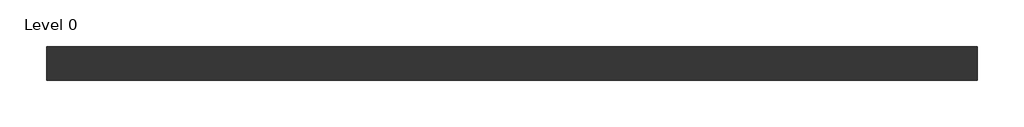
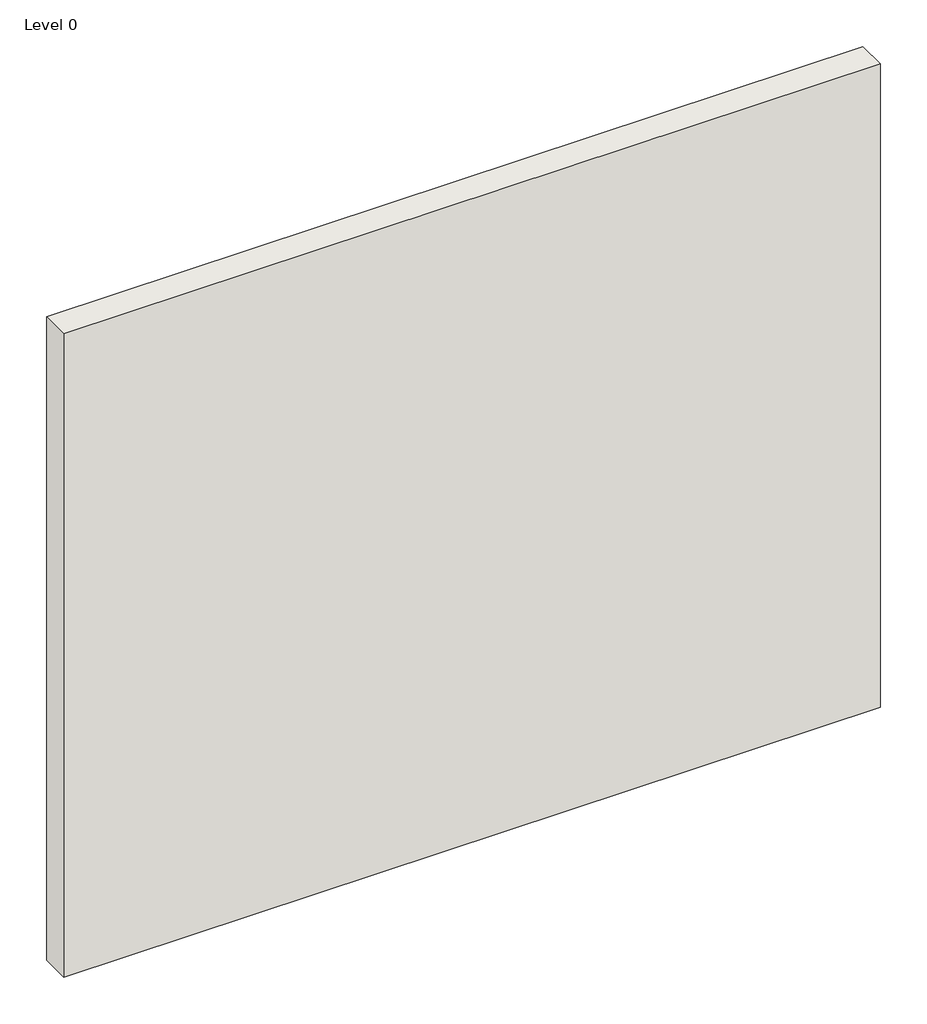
# One storey: 1 wall.
"""IFC4 building model written with IfcOpenShell, lengths in millimetres."""

import ifcopenshell
import ifcopenshell.guid

model = None  # the IFC model being written
_history = None  # IfcOwnerHistory: only IFC2X3 demands one
_inside = {}  # id of a spatial element -> (the spatial element, [elements in it])
_under = {}  # id of a project, library or spatial element -> (it, [spatial elements below it])
_declared = {}  # id of a project -> (the project, [libraries it declares])
_typed = {}  # id of a type object -> (the type object, [elements of that type])
_made_of = {}  # id of a material, layer set ... -> (it, [elements and type objects made of it])


def new_model(schema):
    """Start an empty IFC model of exactly this schema.

    Asked for "IFC4X3", IfcOpenShell would pick the latest addendum, in which some entities
    have other attributes; the version numbers below select the first issue.
    IFC2X3 requires an IfcOwnerHistory on every rooted entity: one is made here for all.
    """
    global model, _history
    if schema == "IFC4X3":
        model = ifcopenshell.file(schema_version=(4, 3, 0, 0))
    else:
        model = ifcopenshell.file(schema=schema)
    _inside.clear()
    _under.clear()
    _declared.clear()
    _typed.clear()
    _made_of.clear()
    _history = None
    if model.schema == "IFC2X3":
        org = make("IfcOrganization", Name="unknown")
        user = make(
            "IfcPersonAndOrganization",
            ThePerson=make("IfcPerson", FamilyName="unknown"),
            TheOrganization=org,
        )
        app = make(
            "IfcApplication",
            ApplicationDeveloper=org,
            Version="unknown",
            ApplicationFullName="unknown",
            ApplicationIdentifier="unknown",
        )
        _history = make(
            "IfcOwnerHistory",
            OwningUser=user,
            OwningApplication=app,
            ChangeAction="ADDED",
            CreationDate=0,
        )
    return model


def make(cls, **values):
    """One entity of the class cls with the attributes given. An attribute that is None is left unset."""
    return model.create_entity(
        cls, **{name: value for name, value in values.items() if value is not None}
    )


def rooted(cls, **values):
    """An entity with a GlobalId (a new one), such as an element, a storey or a relation."""
    return make(cls, GlobalId=ifcopenshell.guid.new(), OwnerHistory=_history, **values)


def si_unit(unit_type, name, prefix=None):
    """IfcSIUnit, for example si_unit("LENGTHUNIT", "METRE", prefix="MILLI")."""
    return make("IfcSIUnit", UnitType=unit_type, Prefix=prefix, Name=name)


def assignment(units):
    """IfcUnitAssignment: the units of a project."""
    return None if units is None else make("IfcUnitAssignment", Units=units)


def point(xyz):
    """IfcCartesianPoint."""
    return None if xyz is None else make("IfcCartesianPoint", Coordinates=xyz)


def direction(xyz):
    """IfcDirection."""
    return None if xyz is None else make("IfcDirection", DirectionRatios=xyz)


def frame(location, z_axis=None, x_axis=None):
    """IfcAxis2Placement3D, a coordinate frame: its origin and axes. An axis left out is left unset."""
    return make(
        "IfcAxis2Placement3D",
        Location=point(location),
        Axis=direction(z_axis),
        RefDirection=direction(x_axis),
    )


def origin():
    """The frame at (0, 0, 0) with its axes left unset."""
    return frame((0.0, 0.0, 0.0))


def origin_with_axes():
    """The frame at (0, 0, 0) with the z axis (0, 0, 1) and the x axis (1, 0, 0) written out."""
    return frame((0.0, 0.0, 0.0), z_axis=(0.0, 0.0, 1.0), x_axis=(1.0, 0.0, 0.0))


def place(relative_to, where):
    """IfcLocalPlacement: puts the frame where relative to a parent placement (None: the world)."""
    return make(
        "IfcLocalPlacement", PlacementRelTo=relative_to, RelativePlacement=where
    )


def context(
    kind, dimensions, precision=None, world=None, true_north=None, identifier=None
):
    """IfcGeometricRepresentationContext, for example the 3D "Model" context."""
    return make(
        "IfcGeometricRepresentationContext",
        ContextIdentifier=identifier,
        ContextType=kind,
        CoordinateSpaceDimension=dimensions,
        Precision=precision,
        WorldCoordinateSystem=world,
        TrueNorth=true_north,
    )


def project(units=None, contexts=None):
    """IfcProject with its units and contexts."""
    return rooted(
        "IfcProject",
        Name="project",
        RepresentationContexts=contexts,
        UnitsInContext=assignment(units),
    )


def spatial(cls, under=None, at=None, **own):
    """A site, building, storey or space (cls), placed at a placement, below another one or the project."""
    s = rooted(cls, ObjectPlacement=at, **own)
    if under is not None:
        _under.setdefault(under.id(), (under, []))[1].append(s)
    return s


def polyline(points):
    """IfcPolyline through the points."""
    return make("IfcPolyline", Points=[point(p) for p in points])


def outline(outer, holes=None, kind="AREA"):
    """IfcArbitraryClosedProfileDef: a profile drawn as a closed curve; with holes, ...WithVoids."""
    if holes is None:
        return make("IfcArbitraryClosedProfileDef", ProfileType=kind, OuterCurve=outer)
    return make(
        "IfcArbitraryProfileDefWithVoids",
        ProfileType=kind,
        OuterCurve=outer,
        InnerCurves=holes,
    )


def extrude(swept, where, along, depth):
    """IfcExtrudedAreaSolid: the profile swept, set in the frame where, extruded along a direction by depth."""
    return make(
        "IfcExtrudedAreaSolid",
        SweptArea=swept,
        Position=where,
        ExtrudedDirection=direction(along),
        Depth=depth,
    )


def shape(context_of_items, identifier, shape_type, items):
    """IfcShapeRepresentation: the items that make up one representation, for example the "Body"."""
    return make(
        "IfcShapeRepresentation",
        ContextOfItems=context_of_items,
        RepresentationIdentifier=identifier,
        RepresentationType=shape_type,
        Items=items,
    )


def made_of(thing, what):
    """Note that an element or type object is made of a material, layer set ...; save() writes the relation."""
    if what is not None:
        _made_of.setdefault(what.id(), (what, []))[1].append(thing)
    return thing


def element(
    cls,
    number,
    at=None,
    inside=None,
    cuts=None,
    type_object=None,
    material=None,
    context=None,
    identifier="Body",
    shape_type=None,
    held_by="IfcProductDefinitionShape",
    body=None,
    shapes=None,
    **own,
):
    """One element of the class cls, such as IfcWall. Its Tag is "e" and its number.

    at: its placement. inside: the storey or other place that contains it. cuts: it is an
    opening in that element (IfcRelVoidsElement). A single representation is given by context,
    identifier, shape_type and body (its items); several are given by shapes. held_by: the class
    of the entity that holds the representations. save() writes the other relations.
    """
    e = rooted(cls, Tag="e%d" % number, ObjectPlacement=at, **own)
    if body is not None:
        shapes = [shape(context, identifier, shape_type, body)]
    if shapes is not None:
        e.Representation = make(held_by, Representations=shapes)
    if inside is not None:
        _inside.setdefault(inside.id(), (inside, []))[1].append(e)
    if cuts is not None:
        rooted(
            "IfcRelVoidsElement", RelatingBuildingElement=cuts, RelatedOpeningElement=e
        )
    if type_object is not None:
        _typed.setdefault(type_object.id(), (type_object, []))[1].append(e)
    return made_of(e, material)


def aggregate(whole, parts):
    """IfcRelAggregates: a whole, such as a stair, and the parts it consists of."""
    return rooted("IfcRelAggregates", RelatingObject=whole, RelatedObjects=parts)


def save(model, path):
    """Write the relations noted so far, then the file.

    IfcRelAggregates (storeys below a building ...), IfcRelContainedInSpatialStructure (elements
    in a storey), IfcRelDefinesByType, IfcRelAssociatesMaterial and IfcRelDeclares: one each for
    every whole, place, type object, material and project.
    """
    for whole, parts in _under.values():
        aggregate(whole, parts)
    for where, things in _inside.values():
        rooted(
            "IfcRelContainedInSpatialStructure",
            RelatedElements=things,
            RelatingStructure=where,
        )
    for kind, things in _typed.values():
        rooted("IfcRelDefinesByType", RelatedObjects=things, RelatingType=kind)
    for what, things in _made_of.values():
        rooted("IfcRelAssociatesMaterial", RelatedObjects=things, RelatingMaterial=what)
    for by, libraries in _declared.values():
        rooted("IfcRelDeclares", RelatingContext=by, RelatedDefinitions=libraries)
    model.write(path)


model = new_model("IFC4")

# Units and contexts
model_context = context("Model", 3, world=origin())
ifc_project = project(units=[si_unit("LENGTHUNIT", "METRE", prefix="MILLI")], contexts=[model_context])

# Site, building, storey
site = spatial("IfcSite", under=ifc_project)
building = spatial("IfcBuilding", under=site)
storey = spatial("IfcBuildingStorey", under=building, Name="Level 0", Elevation=0.0)

# Wall
placement = place(None, origin())
element("IfcWall", 1, ObjectType="A306004 - ShaftWall", at=placement, inside=storey, context=model_context, shape_type="SweptSolid", body=[
    extrude(outline(polyline([(2116.0807354, 539.2205641), (-883.9192646, 539.2205641), (-883.9192646, 648.2205641), (2116.0807354, 648.2205641), (2116.0807354, 539.2205641)])), origin_with_axes(), (0.0, 0.0, 1.0), 2500.0),
])

save(model, "model.ifc")
